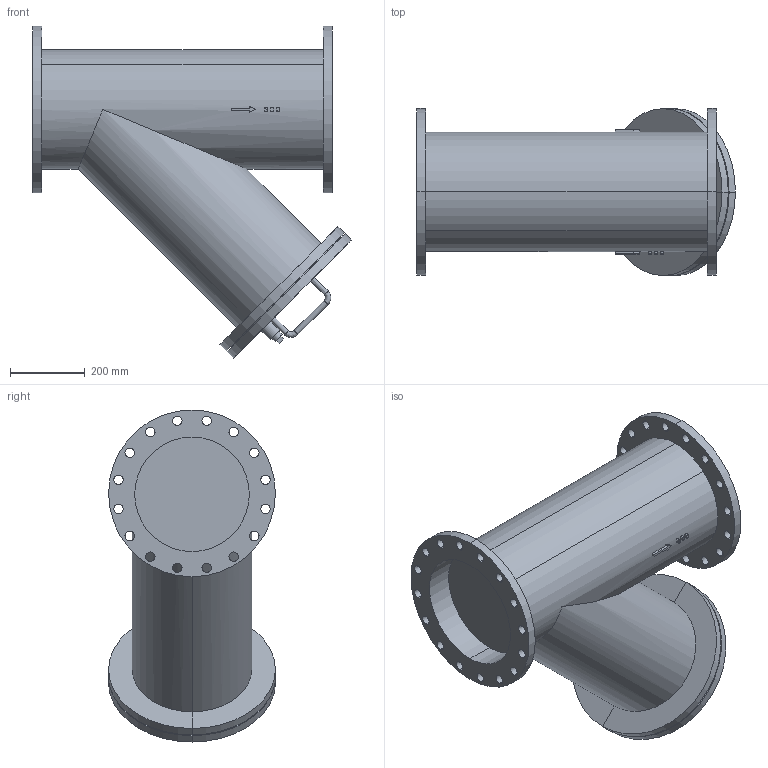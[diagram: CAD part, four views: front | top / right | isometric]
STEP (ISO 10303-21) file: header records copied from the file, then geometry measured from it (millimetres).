
FILE_DESCRIPTION( (''), '2;1');
FILE_NAME ('PC1056.26852.SY-13(300A)_2704.stp','2024-08-01T14:12:37',(''),(''),'spGate 19.8.4 (****-****-****-****)','','');
FILE_SCHEMA (('AUTOMOTIVE_DESIGN'));
Length unit declared in the file: millimetre
Products named in the file (12): Assembly; SY13(300A)本体P; 300Aカバー; PC1056-prt2; PC1056-prt3; PC1056-prt4; PC1056-prt5; PC1056-prt6; 300A取っ手_M7; 300A取っ手_M8; 300A取っ手_M9; プラグ　20A
Assembly tree (19 placements, depth 2):
  Assembly
    SY13(300A)本体P
    300Aカバー
    PC1056-prt2  x2
    PC1056-prt3  x2
    PC1056-prt4  x2
    PC1056-prt5  x2
    PC1056-prt6  x2
    300A取っ手_M7  x2
    300A取っ手_M8  x2
    300A取っ手_M9  x2
    プラグ　20A
Bounding box: 850.69 x 445 x 885.69 mm (x, y, z)
Volume: 102026255 mm3; surface area: 2482109.6 mm2
Topology: 9 solids, 9 shells, 240 faces, 583 edges, 391 vertices
Faces by surface type: cylinder 127, plane 63, bspline 50
Entity records: 14722 total; most frequent: CARTESIAN_POINT 4862, ORIENTED_EDGE 1094, DIRECTION 1054, COLOUR_RGB 782, PRESENTATION_STYLE_ASSIGNMENT 782, STYLED_ITEM 782, DRAUGHTING_PRE_DEFINED_CURVE_FONT 552, CURVE_STYLE 552
